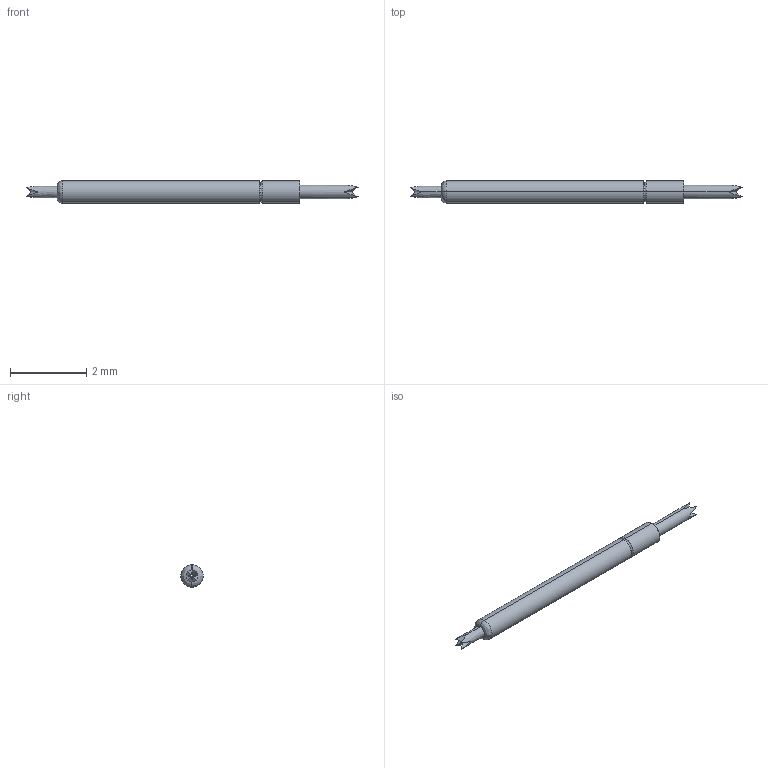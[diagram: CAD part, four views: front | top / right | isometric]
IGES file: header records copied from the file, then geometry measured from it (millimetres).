
Start section: SolidWorks IGES file using analytic representation for surfaces
Global section: file name: Z:\probe solid model mockups\Solidworks models\IGES Files\CSP8-25 IGES files\CSP8-25LL.IGS; native system: SolidWorks 2006 by SolidWorks Corporation; preprocessor: SolidWorks 2006 by SolidWorks Corporation; author: tsakatani; date: 080108.153807; units: inch
Bounding box: 8.69 x 0.58 x 0.58 mm (x, y, z)
Surface area: 14.6 mm2 (no closed solid volume)
Topology: 0 solids, 0 shells, 31 faces, 180 edges, 180 vertices
Faces by surface type: bspline 23, revolution 8
